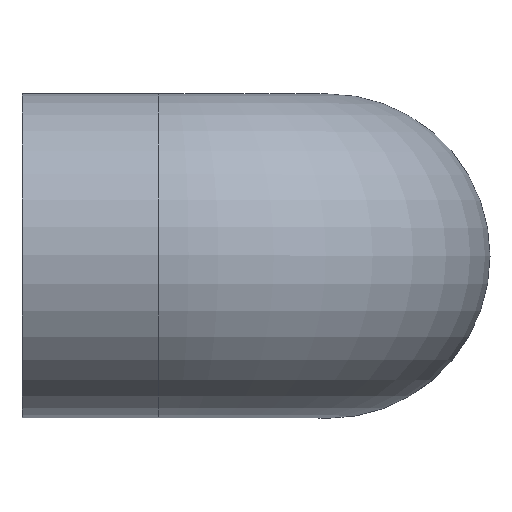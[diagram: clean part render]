
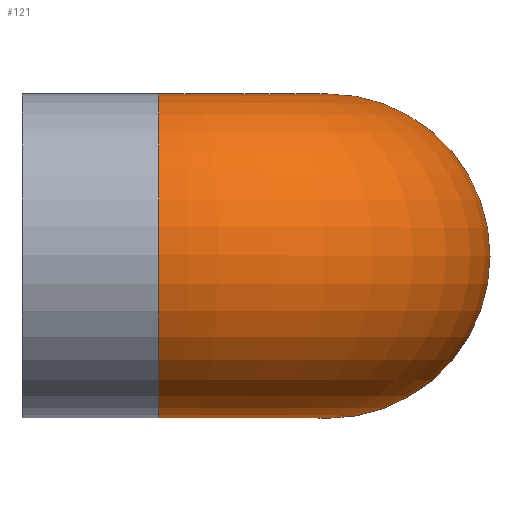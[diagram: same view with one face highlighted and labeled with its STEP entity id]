
A CAD part, top view. The second image highlights one B-rep face of the part: STEP entity #121.
In plain terms, the highlighted toroidal (fillet/blend) face has major radius 46.5 mm and minor radius 44.5 mm.
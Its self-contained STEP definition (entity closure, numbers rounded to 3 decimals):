
#29=FACE_BOUND('',#56,.T.);
#39=FACE_OUTER_BOUND('',#55,.T.);
#55=EDGE_LOOP('',(#105));
#56=EDGE_LOOP('',(#106));
#70=CIRCLE('',#140,44.5);
#71=CIRCLE('',#142,44.5);
#80=VERTEX_POINT('',#210);
#81=VERTEX_POINT('',#213);
#90=EDGE_CURVE('',#80,#80,#70,.T.);
#91=EDGE_CURVE('',#81,#81,#71,.T.);
#105=ORIENTED_EDGE('',*,*,#90,.F.);
#106=ORIENTED_EDGE('',*,*,#91,.T.);
#114=TOROIDAL_SURFACE('',#141,46.5,44.5);
#121=ADVANCED_FACE('',(#39,#29),#114,.T.);
#140=AXIS2_PLACEMENT_3D('',#211,#175,#176);
#141=AXIS2_PLACEMENT_3D('',#212,#177,#178);
#142=AXIS2_PLACEMENT_3D('',#214,#179,#180);
#175=DIRECTION('center_axis',(-1.,0.,0.));
#176=DIRECTION('ref_axis',(0.,0.,-1.));
#177=DIRECTION('center_axis',(0.,-1.,0.));
#178=DIRECTION('ref_axis',(0.,0.,-1.));
#179=DIRECTION('center_axis',(0.,0.,1.));
#180=DIRECTION('ref_axis',(-1.,0.,0.));
#210=CARTESIAN_POINT('',(-46.5,0.,128.5));
#211=CARTESIAN_POINT('Origin',(-46.5,0.,84.));
#212=CARTESIAN_POINT('Origin',(-46.5,0.,37.5));
#213=CARTESIAN_POINT('',(44.5,0.,37.5));
#214=CARTESIAN_POINT('Origin',(0.,0.,37.5));
